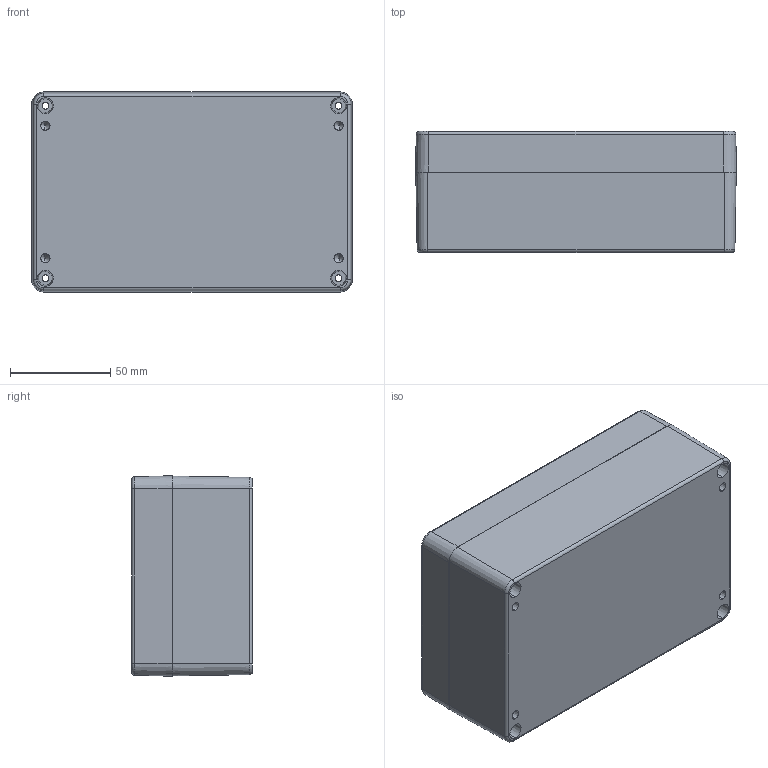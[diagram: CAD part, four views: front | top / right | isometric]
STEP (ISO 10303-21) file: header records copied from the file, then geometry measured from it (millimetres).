
FILE_DESCRIPTION (( 'STEP AP203' ), '1' );
FILE_NAME ('SE-325-0-0.STEP', '2020-05-20T13:50:54', ( '' ), ( '' ), 'SwSTEP 2.0', 'SolidWorks 2020', '' );
FILE_SCHEMA (( 'CONFIG_CONTROL_DESIGN' ));
Length unit declared in the file: millimetre
Products named in the file (3): SE-325-P-1; SE-325-P-2; SE-325-0-0
Assembly tree (2 placements, depth 2):
  SE-325-0-0
    SE-325-P-2
    SE-325-P-1
Bounding box: 159.9 x 60.2 x 99.8 mm (x, y, z)
Volume: 246141.5 mm3; surface area: 128984.8 mm2
Topology: 2 solids, 2 shells, 274 faces, 693 edges, 451 vertices
Faces by surface type: cone 127, plane 107, cylinder 32, torus 8
Entity records: 8693 total; most frequent: DIRECTION 1556, CARTESIAN_POINT 1450, ORIENTED_EDGE 1386, EDGE_CURVE 693, AXIS2_PLACEMENT_3D 589, VERTEX_POINT 451, LINE 378, VECTOR 378
